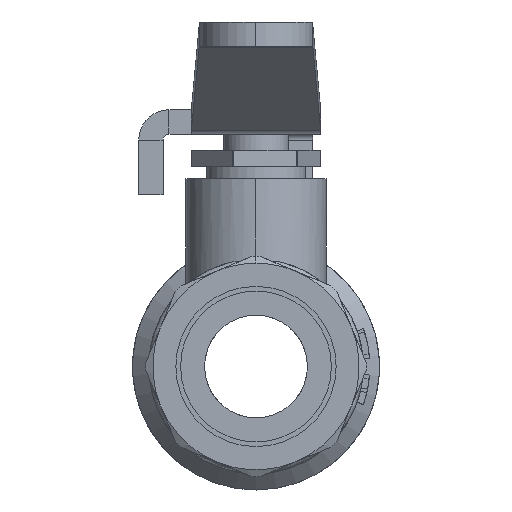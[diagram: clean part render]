
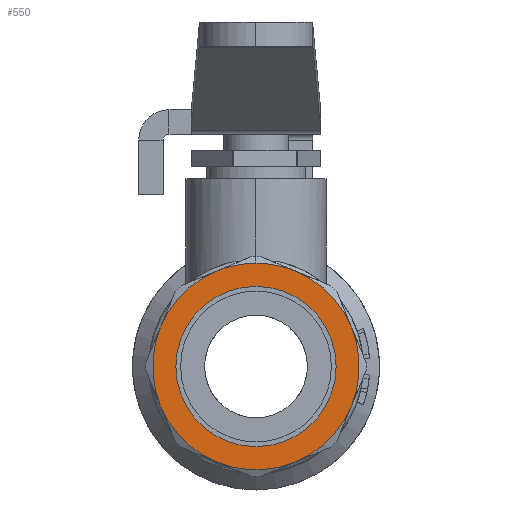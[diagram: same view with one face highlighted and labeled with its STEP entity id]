
A CAD part, left-side view. The second image highlights one B-rep face of the part: STEP entity #550.
In plain terms, the highlighted planar face has unit normal (-1, 0, 0).
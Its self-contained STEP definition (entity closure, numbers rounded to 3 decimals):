
#166=FACE_BOUND('',#1323,.T.);
#167=FACE_BOUND('',#1324,.T.);
#247=PLANE('',#6448);
#550=ADVANCED_FACE('',(#166,#167),#247,.T.);
#1323=EDGE_LOOP('',(#2844,#2845));
#1324=EDGE_LOOP('',(#2846,#2847,#2848,#2849,#2850,#2851,#2852,#2853,#2854));
#2844=ORIENTED_EDGE('',*,*,#5244,.F.);
#2845=ORIENTED_EDGE('',*,*,#5135,.F.);
#2846=ORIENTED_EDGE('',*,*,#5245,.T.);
#2847=ORIENTED_EDGE('',*,*,#5246,.T.);
#2848=ORIENTED_EDGE('',*,*,#5247,.T.);
#2849=ORIENTED_EDGE('',*,*,#5248,.T.);
#2850=ORIENTED_EDGE('',*,*,#5249,.T.);
#2851=ORIENTED_EDGE('',*,*,#5098,.T.);
#2852=ORIENTED_EDGE('',*,*,#5250,.T.);
#2853=ORIENTED_EDGE('',*,*,#5251,.T.);
#2854=ORIENTED_EDGE('',*,*,#5252,.T.);
#4511=VERTEX_POINT('',#8615);
#4512=VERTEX_POINT('',#8616);
#4546=VERTEX_POINT('',#8726);
#4547=VERTEX_POINT('',#8728);
#4600=VERTEX_POINT('',#8890);
#4603=VERTEX_POINT('',#8904);
#4606=VERTEX_POINT('',#8918);
#4609=VERTEX_POINT('',#8932);
#4611=VERTEX_POINT('',#8944);
#4616=VERTEX_POINT('',#8964);
#4621=VERTEX_POINT('',#8984);
#5098=EDGE_CURVE('',#4511,#4512,#6024,.T.);
#5135=EDGE_CURVE('',#4546,#4547,#6040,.T.);
#5244=EDGE_CURVE('',#4547,#4546,#6081,.T.);
#5245=EDGE_CURVE('',#4611,#4609,#6082,.T.);
#5246=EDGE_CURVE('',#4609,#4606,#6083,.T.);
#5247=EDGE_CURVE('',#4606,#4603,#6084,.T.);
#5248=EDGE_CURVE('',#4603,#4600,#6085,.T.);
#5249=EDGE_CURVE('',#4600,#4511,#6086,.T.);
#5250=EDGE_CURVE('',#4512,#4621,#6087,.T.);
#5251=EDGE_CURVE('',#4621,#4616,#6088,.T.);
#5252=EDGE_CURVE('',#4616,#4611,#6089,.T.);
#6024=CIRCLE('',#6343,12.75);
#6040=CIRCLE('',#6366,9.897);
#6081=CIRCLE('',#6439,9.897);
#6082=CIRCLE('',#6440,12.75);
#6083=CIRCLE('',#6441,12.75);
#6084=CIRCLE('',#6442,12.75);
#6085=CIRCLE('',#6443,12.75);
#6086=CIRCLE('',#6444,12.75);
#6087=CIRCLE('',#6445,12.75);
#6088=CIRCLE('',#6446,12.75);
#6089=CIRCLE('',#6447,12.75);
#6343=AXIS2_PLACEMENT_3D('',#8614,#6985,#6986);
#6366=AXIS2_PLACEMENT_3D('',#8727,#7045,#7046);
#6439=AXIS2_PLACEMENT_3D('',#9031,#7235,#7236);
#6440=AXIS2_PLACEMENT_3D('',#9032,#7237,#7238);
#6441=AXIS2_PLACEMENT_3D('',#9033,#7239,#7240);
#6442=AXIS2_PLACEMENT_3D('',#9034,#7241,#7242);
#6443=AXIS2_PLACEMENT_3D('',#9035,#7243,#7244);
#6444=AXIS2_PLACEMENT_3D('',#9036,#7245,#7246);
#6445=AXIS2_PLACEMENT_3D('',#9037,#7247,#7248);
#6446=AXIS2_PLACEMENT_3D('',#9038,#7249,#7250);
#6447=AXIS2_PLACEMENT_3D('',#9039,#7251,#7252);
#6448=AXIS2_PLACEMENT_3D('',#9040,#7253,#7254);
#6985=DIRECTION('',(-1.,0.,0.));
#6986=DIRECTION('',(0.,0.,-1.));
#7045=DIRECTION('',(-1.,0.,0.));
#7046=DIRECTION('',(0.,0.,-1.));
#7235=DIRECTION('',(-1.,0.,0.));
#7236=DIRECTION('',(0.,0.,-1.));
#7237=DIRECTION('',(-1.,0.,0.));
#7238=DIRECTION('',(0.,0.,-1.));
#7239=DIRECTION('',(-1.,0.,0.));
#7240=DIRECTION('',(0.,0.,-1.));
#7241=DIRECTION('',(-1.,0.,0.));
#7242=DIRECTION('',(0.,0.,-1.));
#7243=DIRECTION('',(-1.,0.,0.));
#7244=DIRECTION('',(0.,0.,-1.));
#7245=DIRECTION('',(-1.,0.,0.));
#7246=DIRECTION('',(0.,0.,-1.));
#7247=DIRECTION('',(-1.,0.,0.));
#7248=DIRECTION('',(0.,0.,-1.));
#7249=DIRECTION('',(-1.,0.,0.));
#7250=DIRECTION('',(0.,0.,-1.));
#7251=DIRECTION('',(-1.,0.,0.));
#7252=DIRECTION('',(0.,0.,-1.));
#7253=DIRECTION('',(-1.,0.,0.));
#7254=DIRECTION('',(0.,0.,-1.));
#8614=CARTESIAN_POINT('',(-39.,0.,0.));
#8615=CARTESIAN_POINT('',(-39.,0.,12.75));
#8616=CARTESIAN_POINT('',(-39.,4.879,11.779));
#8726=CARTESIAN_POINT('',(-39.,0.,9.897));
#8727=CARTESIAN_POINT('',(-39.,0.,0.));
#8728=CARTESIAN_POINT('',(-39.,0.,-9.897));
#8890=CARTESIAN_POINT('',(-39.,-4.879,11.779));
#8904=CARTESIAN_POINT('',(-39.,-11.779,4.879));
#8918=CARTESIAN_POINT('',(-39.,-11.779,-4.879));
#8932=CARTESIAN_POINT('',(-39.,-4.879,-11.779));
#8944=CARTESIAN_POINT('',(-39.,4.879,-11.779));
#8964=CARTESIAN_POINT('',(-39.,11.779,-4.879));
#8984=CARTESIAN_POINT('',(-39.,11.779,4.879));
#9031=CARTESIAN_POINT('',(-39.,0.,0.));
#9032=CARTESIAN_POINT('',(-39.,0.,0.));
#9033=CARTESIAN_POINT('',(-39.,0.,0.));
#9034=CARTESIAN_POINT('',(-39.,0.,0.));
#9035=CARTESIAN_POINT('',(-39.,0.,0.));
#9036=CARTESIAN_POINT('',(-39.,0.,0.));
#9037=CARTESIAN_POINT('',(-39.,0.,0.));
#9038=CARTESIAN_POINT('',(-39.,0.,0.));
#9039=CARTESIAN_POINT('',(-39.,0.,0.));
#9040=CARTESIAN_POINT('',(-39.,0.,-12.75));
